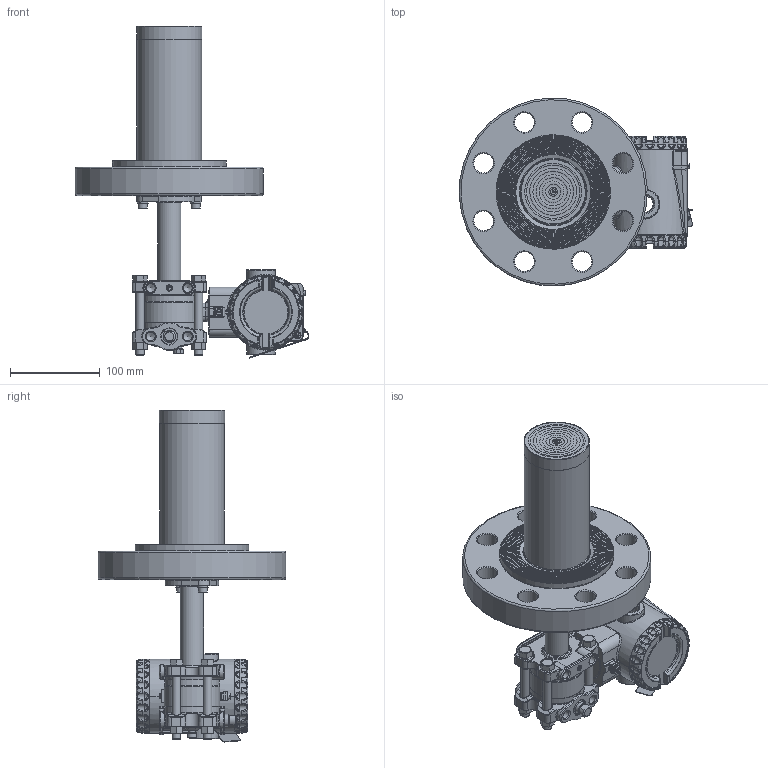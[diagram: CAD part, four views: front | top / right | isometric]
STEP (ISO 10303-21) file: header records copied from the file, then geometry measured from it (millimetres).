
FILE_DESCRIPTION(/* description */ (''),/* implementation_level */ '2;1');
FILE_NAME(/* name */ 'F:\Area\Desenvolvimento_2\Projects\Sensor\projetos\LD400-3d\dimensionais 3D clientes\LD400L\LD400L 3-600 RF ext 150 ref 1-4NPT purga acima.stp',/* time_stamp */ '2023-02-23T16:26:34-03:00',/* author */ ('inventor02'),/* organization */ (''),/* preprocessor_version */ 'ST-DEVELOPER v17',/* originating_system */ 'Autodesk Inventor 2019',/* authorisation */ '');
FILE_SCHEMA (('CONFIG_CONTROL_DESIGN'));
Products named in the file (41): LD30XL 3-600 RF ext 150 ref 1-4NPT purga acima; 204-0301-L-3 600 RF ext 150 purga acima; nivel fx3 com baixa diferencial 1-4NPT purga acima; involucro fx0-3 apos a usinagem final; flange diferencial std purga; 101-C-7484-01 flange selo nivel VR; 201-A-0504-tubo união teste 1; bujao 1-4NPT; Sangria; Porca 3-8 x 16 UNC; Paraf. 3-8 x 16 UNC; adaptação tubo x flanges 1-1-2 a 4pol; 101-B-0161-anel cortado do tubo - teste1; 101-B-0162-flange fixação tubo; ANSI B18.3.1M - M6x1 x 16; DIN 127 - A 6; flange 3 600 ext 150; 101-C-0129-12; 096-B-0199-14; 101-B-7701-02 ext 3-150; Carcaça 400 com tampas e plaqueta sem letras; 101-D-0845-05 carcaça LD400 sem letras; 101-B-3614-03-tampa 400 sem letras; Tampa visor 400 montada sem letras; 101-B-3612-05 tampa visor 400 sem letras; 101-A-6107; oring 2034; 00034775-0; WHW_250; DIN 915 - M6 x 10; Chapa aterramento externo; 201-A-1771-02 inserto terra recartilhado; AS 1969 - ST4,2; ISO 1207 - M4 x 8; ANSI B18.3.1M - M4x0,7 x 8; Subconjunto plaqueta 400; plaqueta 400 em branco; Parafuso da Plaqueta; Rebite da Plaqueta; 096-A-0169-03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
Assembly tree (50 placements, depth 4):
  LD30XL 3-600 RF ext 150 ref 1-4NPT purga acima
    204-0301-L-3 600 RF ext 150 purga acima
      nivel fx3 com baixa diferencial 1-4NPT purga acima
        involucro fx0-3 apos a usinagem final
        flange diferencial std purga
        101-C-7484-01 flange selo nivel VR
        201-A-0504-tubo união teste 1
        DIN 915 - M6 x 10
        bujao 1-4NPT
        Sangria
        Porca 3-8 x 16 UNC  x4
        Paraf. 3-8 x 16 UNC  x4
      adaptação tubo x flanges 1-1-2 a 4pol
        101-B-0161-anel cortado do tubo - teste1
        101-B-0162-flange fixação tubo
        ANSI B18.3.1M - M6x1 x 16  x2
        DIN 127 - A 6  x2
      flange 3 600 ext 150
        101-C-0129-12
        096-B-0199-14
        101-B-7701-02 ext 3-150
    Carcaça 400 com tampas e plaqueta sem letras
      101-D-0845-05 carcaça LD400 sem letras
      101-B-3614-03-tampa 400 sem letras
      Tampa visor 400 montada sem letras
        101-B-3612-05 tampa visor 400 sem letras
        101-A-6107
        oring 2034
        00034775-0
        WHW_250
      DIN 915 - M6 x 10
      Chapa aterramento externo
      201-A-1771-02 inserto terra recartilhado
      AS 1969 - ST4,2
      ISO 1207 - M4 x 8
      ANSI B18.3.1M - M4x0,7 x 8  x2
      Subconjunto plaqueta 400
        plaqueta 400 em branco
        Parafuso da Plaqueta
        Rebite da Plaqueta
        096-A-0169-03
        101-A-0502-01
Bounding box: 260.65 x 209.8 x 370.72 mm (x, y, z)
Volume: 1854305.4 mm3; surface area: 438254.2 mm2
Topology: 43 solids, 43 shells, 2809 faces, 6797 edges, 4087 vertices
Faces by surface type: plane 739, cylinder 668, bspline 605, torus 491, cone 230, sphere 76
Full cylindrical faces by diameter (mm): 2 x4, 2.1 x1, 2.2 x1, 2.459 x3, 2.5 x1, 2.7 x1, 2.8 x1, 3 x4, 3.242 x3, 3.5 x1, 3.571 x1, 4 x5, 4.3 x2, 4.4 x1, 4.917 x4, 5 x1, 5.5 x3, 6 x6, 6.1 x2, 6.2 x1, 6.647 x1, 7 x5, 7.6 x2, 7.798 x4, 8 x1, 9.525 x4, 9.728 x6, 10 x2, 10.5 x8, 10.719 x2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
Entity records: 99875 total; most frequent: CARTESIAN_POINT 37281, DIRECTION 12942, ORIENTED_EDGE 12834, EDGE_CURVE 6417, AXIS2_PLACEMENT_3D 5554, VERTEX_POINT 3893, CIRCLE 3233, EDGE_LOOP 2870
